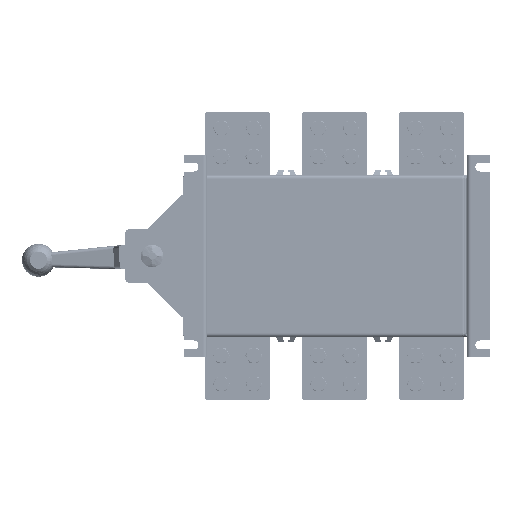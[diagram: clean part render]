
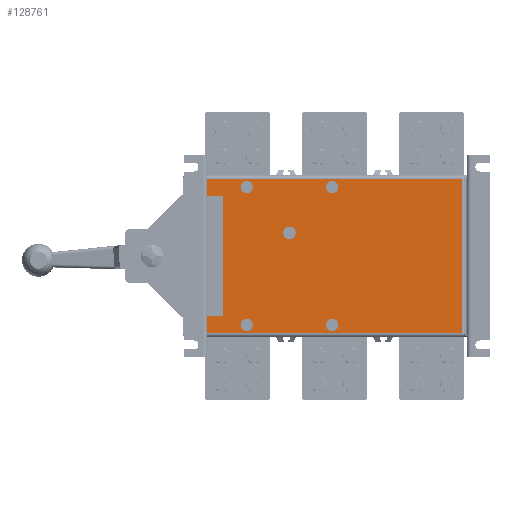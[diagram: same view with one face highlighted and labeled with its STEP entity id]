
A CAD part, front view. The second image highlights one B-rep face of the part: STEP entity #128761.
In plain terms, the highlighted planar face has unit normal (0, -1, 0) as drawn and (0, 1, 0) by its records, which use the part's own axes.
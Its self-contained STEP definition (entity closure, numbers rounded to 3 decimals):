
#126812=DIRECTION('',(0.,0.,1.));
#126813=VECTOR('',#126812,21.2);
#126814=CARTESIAN_POINT('',(-104.5,55.4,74.65));
#126815=LINE('',#126814,#126813);
#127146=DIRECTION('',(1.,0.,0.));
#127147=VECTOR('',#127146,315.);
#127148=CARTESIAN_POINT('',(-104.5,55.4,95.85));
#127149=LINE('',#127148,#127147);
#127160=CARTESIAN_POINT('',(50.,55.4,-85.2));
#127161=DIRECTION('',(0.,1.,0.));
#127162=DIRECTION('',(0.,0.,1.));
#127163=AXIS2_PLACEMENT_3D('',#127160,#127161,#127162);
#127168=CARTESIAN_POINT('',(50.,55.4,-85.2));
#127169=DIRECTION('',(0.,1.,0.));
#127170=DIRECTION('',(0.,0.,-1.));
#127171=AXIS2_PLACEMENT_3D('',#127168,#127169,#127170);
#127176=CARTESIAN_POINT('',(50.,55.4,85.2));
#127177=DIRECTION('',(0.,1.,0.));
#127178=DIRECTION('',(0.,0.,1.));
#127179=AXIS2_PLACEMENT_3D('',#127176,#127177,#127178);
#127184=CARTESIAN_POINT('',(50.,55.4,85.2));
#127185=DIRECTION('',(0.,1.,0.));
#127186=DIRECTION('',(0.,0.,-1.));
#127187=AXIS2_PLACEMENT_3D('',#127184,#127185,#127186);
#127192=CARTESIAN_POINT('',(-3.,55.4,-28.55));
#127193=DIRECTION('',(0.,1.,0.));
#127194=DIRECTION('',(0.,0.,1.));
#127195=AXIS2_PLACEMENT_3D('',#127192,#127193,#127194);
#127200=CARTESIAN_POINT('',(-3.,55.4,-28.55));
#127201=DIRECTION('',(0.,1.,0.));
#127202=DIRECTION('',(0.,0.,-1.));
#127203=AXIS2_PLACEMENT_3D('',#127200,#127201,#127202);
#127208=CARTESIAN_POINT('',(-56.,55.4,-85.2));
#127209=DIRECTION('',(0.,1.,0.));
#127210=DIRECTION('',(0.,0.,1.));
#127211=AXIS2_PLACEMENT_3D('',#127208,#127209,#127210);
#127216=CARTESIAN_POINT('',(-56.,55.4,-85.2));
#127217=DIRECTION('',(0.,1.,0.));
#127218=DIRECTION('',(0.,0.,-1.));
#127219=AXIS2_PLACEMENT_3D('',#127216,#127217,#127218);
#127224=CARTESIAN_POINT('',(-56.,55.4,85.2));
#127225=DIRECTION('',(0.,1.,0.));
#127226=DIRECTION('',(0.,0.,1.));
#127227=AXIS2_PLACEMENT_3D('',#127224,#127225,#127226);
#127232=CARTESIAN_POINT('',(-56.,55.4,85.2));
#127233=DIRECTION('',(0.,1.,0.));
#127234=DIRECTION('',(0.,0.,-1.));
#127235=AXIS2_PLACEMENT_3D('',#127232,#127233,#127234);
#127268=DIRECTION('',(-1.,0.,0.));
#127269=VECTOR('',#127268,19.);
#127270=CARTESIAN_POINT('',(-85.5,55.4,74.65));
#127271=LINE('',#127270,#127269);
#127450=DIRECTION('',(0.,0.,1.));
#127451=VECTOR('',#127450,21.2);
#127452=CARTESIAN_POINT('',(-104.5,55.4,-95.85));
#127453=LINE('',#127452,#127451);
#127514=DIRECTION('',(1.,0.,0.));
#127515=VECTOR('',#127514,19.);
#127516=CARTESIAN_POINT('',(-104.5,55.4,-74.65));
#127517=LINE('',#127516,#127515);
#127542=DIRECTION('',(0.,0.,1.));
#127543=VECTOR('',#127542,149.3);
#127544=CARTESIAN_POINT('',(-85.5,55.4,-74.65));
#127545=LINE('',#127544,#127543);
#127785=DIRECTION('',(0.,0.,-1.));
#127786=VECTOR('',#127785,191.7);
#127787=CARTESIAN_POINT('',(210.5,55.4,95.85));
#127788=LINE('',#127787,#127786);
#127823=DIRECTION('',(-1.,0.,0.));
#127824=VECTOR('',#127823,315.);
#127825=CARTESIAN_POINT('',(210.5,55.4,-95.85));
#127826=LINE('',#127825,#127824);
#128172=CARTESIAN_POINT('',(-104.5,55.4,74.65));
#128173=VERTEX_POINT('',#128172);
#128174=CARTESIAN_POINT('',(-104.5,55.4,95.85));
#128175=VERTEX_POINT('',#128174);
#128180=CARTESIAN_POINT('',(-104.5,55.4,-95.85));
#128181=CARTESIAN_POINT('',(-104.5,55.4,-74.65));
#128182=VERTEX_POINT('',#128180);
#128183=VERTEX_POINT('',#128181);
#128292=CARTESIAN_POINT('',(210.5,55.4,95.85));
#128293=VERTEX_POINT('',#128292);
#128294=CARTESIAN_POINT('',(-85.5,55.4,74.65));
#128295=VERTEX_POINT('',#128294);
#128296=CARTESIAN_POINT('',(-85.5,55.4,-74.65));
#128297=VERTEX_POINT('',#128296);
#128298=CARTESIAN_POINT('',(210.5,55.4,-95.85));
#128299=VERTEX_POINT('',#128298);
#128300=CARTESIAN_POINT('',(50.,55.4,-77.6));
#128301=CARTESIAN_POINT('',(50.,55.4,-92.8));
#128302=VERTEX_POINT('',#128300);
#128303=VERTEX_POINT('',#128301);
#128304=CARTESIAN_POINT('',(50.,55.4,92.8));
#128305=CARTESIAN_POINT('',(50.,55.4,77.6));
#128306=VERTEX_POINT('',#128304);
#128307=VERTEX_POINT('',#128305);
#128308=CARTESIAN_POINT('',(-3.,55.4,-20.86));
#128309=CARTESIAN_POINT('',(-3.,55.4,-36.24));
#128310=VERTEX_POINT('',#128308);
#128311=VERTEX_POINT('',#128309);
#128312=CARTESIAN_POINT('',(-56.,55.4,-77.6));
#128313=CARTESIAN_POINT('',(-56.,55.4,-92.8));
#128314=VERTEX_POINT('',#128312);
#128315=VERTEX_POINT('',#128313);
#128316=CARTESIAN_POINT('',(-56.,55.4,92.8));
#128317=CARTESIAN_POINT('',(-56.,55.4,77.6));
#128318=VERTEX_POINT('',#128316);
#128319=VERTEX_POINT('',#128317);
#128710=CARTESIAN_POINT('',(0.,55.4,0.));
#128711=DIRECTION('',(0.,-1.,0.));
#128712=DIRECTION('',(0.,0.,-1.));
#128713=AXIS2_PLACEMENT_3D('',#128710,#128711,#128712);
#128714=PLANE('',#128713);
#128715=ORIENTED_EDGE('',*,*,#128440,.F.);
#128717=ORIENTED_EDGE('',*,*,#128716,.F.);
#128719=ORIENTED_EDGE('',*,*,#128718,.F.);
#128721=ORIENTED_EDGE('',*,*,#128720,.F.);
#128723=ORIENTED_EDGE('',*,*,#128722,.F.);
#128725=ORIENTED_EDGE('',*,*,#128724,.F.);
#128727=ORIENTED_EDGE('',*,*,#128726,.F.);
#128728=ORIENTED_EDGE('',*,*,#128702,.F.);
#128729=EDGE_LOOP('',(#128715,#128717,#128719,#128721,#128723,#128725,#128727,
#128728));
#128730=FACE_OUTER_BOUND('',#128729,.F.);
#128732=ORIENTED_EDGE('',*,*,#128731,.T.);
#128734=ORIENTED_EDGE('',*,*,#128733,.T.);
#128735=EDGE_LOOP('',(#128732,#128734));
#128736=FACE_BOUND('',#128735,.F.);
#128738=ORIENTED_EDGE('',*,*,#128737,.T.);
#128740=ORIENTED_EDGE('',*,*,#128739,.T.);
#128741=EDGE_LOOP('',(#128738,#128740));
#128742=FACE_BOUND('',#128741,.F.);
#128744=ORIENTED_EDGE('',*,*,#128743,.T.);
#128746=ORIENTED_EDGE('',*,*,#128745,.T.);
#128747=EDGE_LOOP('',(#128744,#128746));
#128748=FACE_BOUND('',#128747,.F.);
#128750=ORIENTED_EDGE('',*,*,#128749,.T.);
#128752=ORIENTED_EDGE('',*,*,#128751,.T.);
#128753=EDGE_LOOP('',(#128750,#128752));
#128754=FACE_BOUND('',#128753,.F.);
#128756=ORIENTED_EDGE('',*,*,#128755,.T.);
#128758=ORIENTED_EDGE('',*,*,#128757,.T.);
#128759=EDGE_LOOP('',(#128756,#128758));
#128760=FACE_BOUND('',#128759,.F.);
#127164=CIRCLE('',#127163,7.6);
#127172=CIRCLE('',#127171,7.6);
#127180=CIRCLE('',#127179,7.6);
#127188=CIRCLE('',#127187,7.6);
#127196=CIRCLE('',#127195,7.69);
#127204=CIRCLE('',#127203,7.69);
#127212=CIRCLE('',#127211,7.6);
#127220=CIRCLE('',#127219,7.6);
#127228=CIRCLE('',#127227,7.6);
#127236=CIRCLE('',#127235,7.6);
#128440=EDGE_CURVE('',#128173,#128175,#126815,.T.);
#128702=EDGE_CURVE('',#128175,#128293,#127149,.T.);
#128716=EDGE_CURVE('',#128295,#128173,#127271,.T.);
#128718=EDGE_CURVE('',#128297,#128295,#127545,.T.);
#128720=EDGE_CURVE('',#128183,#128297,#127517,.T.);
#128722=EDGE_CURVE('',#128182,#128183,#127453,.T.);
#128724=EDGE_CURVE('',#128299,#128182,#127826,.T.);
#128726=EDGE_CURVE('',#128293,#128299,#127788,.T.);
#128731=EDGE_CURVE('',#128302,#128303,#127164,.T.);
#128733=EDGE_CURVE('',#128303,#128302,#127172,.T.);
#128737=EDGE_CURVE('',#128306,#128307,#127180,.T.);
#128739=EDGE_CURVE('',#128307,#128306,#127188,.T.);
#128743=EDGE_CURVE('',#128310,#128311,#127196,.T.);
#128745=EDGE_CURVE('',#128311,#128310,#127204,.T.);
#128749=EDGE_CURVE('',#128314,#128315,#127212,.T.);
#128751=EDGE_CURVE('',#128315,#128314,#127220,.T.);
#128755=EDGE_CURVE('',#128318,#128319,#127228,.T.);
#128757=EDGE_CURVE('',#128319,#128318,#127236,.T.);
#128761=ADVANCED_FACE('',(#128730,#128736,#128742,#128748,#128754,#128760),
#128714,.F.);
